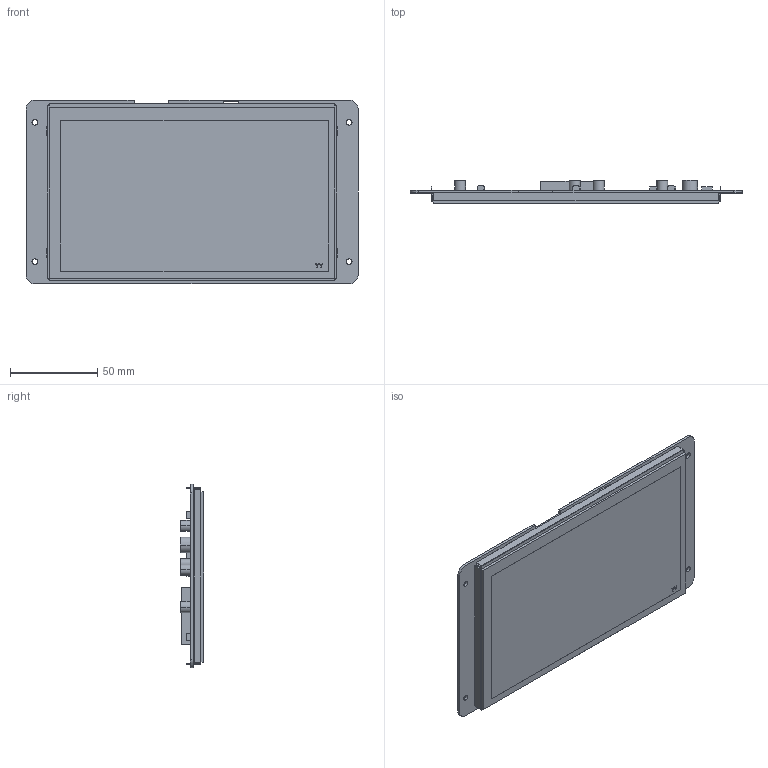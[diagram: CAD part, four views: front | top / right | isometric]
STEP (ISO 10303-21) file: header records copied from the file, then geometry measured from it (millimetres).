
FILE_DESCRIPTION((''),'2;1');
FILE_NAME('DMG80480C070-03WTC_ASM','2023-07-25T',('Administrator'),(''),'PRO/ENGINEER BY PARAMETRIC TECHNOLOGY CORPORATION, 2014320','PRO/ENGINEER BY PARAMETRIC TECHNOLOGY CORPORATION, 2014320','');
FILE_SCHEMA(('CONFIG_CONTROL_DESIGN','SHAPE_APPEARANCE_LAYERS_GROUPS'));
Length unit declared in the file: millimetre
Products named in the file (5): TK070019; LCD_6; PCB-C070-03; YF07002; DMG80480C070-03WTC_ASM
Assembly tree (4 placements, depth 2):
  DMG80480C070-03WTC_ASM
    TK070019
    LCD_6
    PCB-C070-03
    YF07002
Bounding box: 190.5 x 13.3 x 105.41 mm (x, y, z)
Volume: 120576.1 mm3; surface area: 121230.2 mm2
Topology: 4 solids, 4 shells, 294 faces, 804 edges, 536 vertices
Faces by surface type: plane 234, cylinder 60
Entity records: 11486 total; most frequent: CARTESIAN_POINT 1643, ORIENTED_EDGE 1608, DIRECTION 1530, EDGE_CURVE 804, VECTOR 684, LINE 684, PRESENTATION_STYLE_ASSIGNMENT 640, STYLED_ITEM 632
